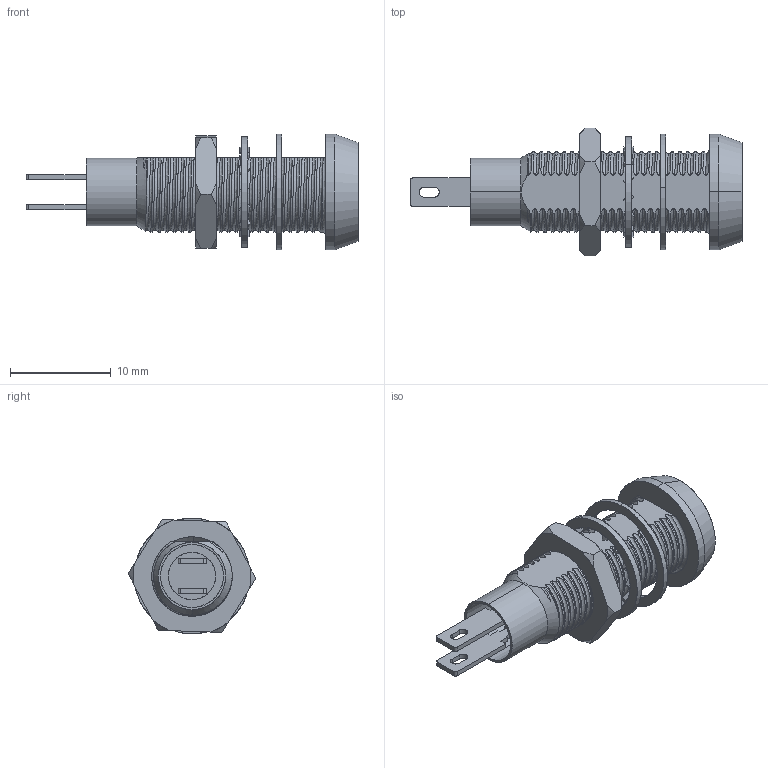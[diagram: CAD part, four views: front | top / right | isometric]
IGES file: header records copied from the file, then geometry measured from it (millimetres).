
Start section: SolidWorks IGES file using analytic representation for surfaces
Global section: file name: C:\Users\paulr\Desktop\677 SERIES\677series.IGS; native system: SolidWorks 2014; preprocessor: SolidWorks 2014; author: PaulR; date: 141204.102355; units: millimetre
Bounding box: 33 x 12.69 x 11.5 mm (x, y, z)
Surface area: 2097.9 mm2 (no closed solid volume)
Topology: 0 solids, 0 shells, 391 faces, 5001 edges, 4997 vertices
Faces by surface type: bspline 245, revolution 146
